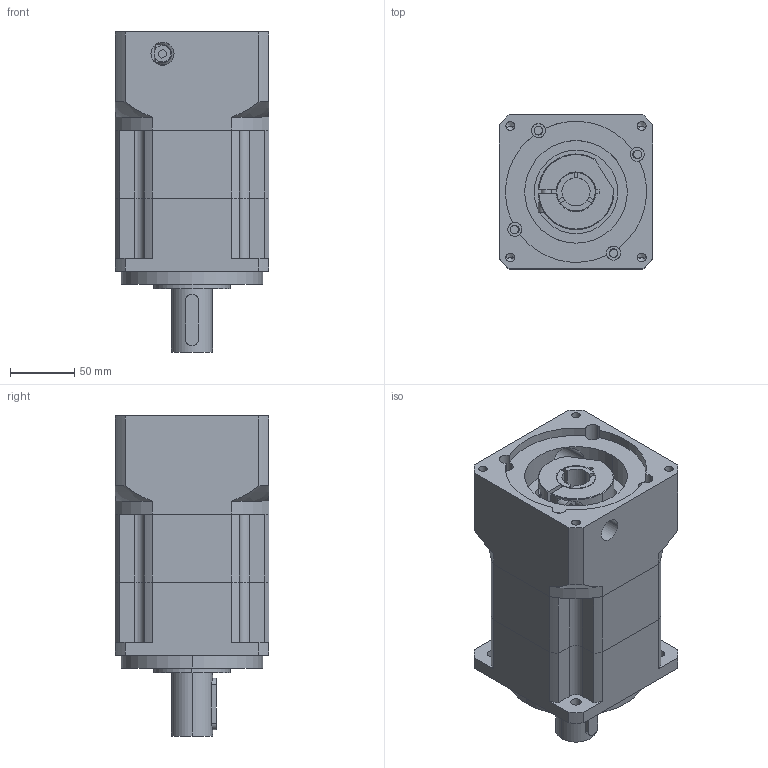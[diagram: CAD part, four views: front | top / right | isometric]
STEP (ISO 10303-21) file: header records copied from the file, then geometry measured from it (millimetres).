
FILE_DESCRIPTION (( 'STEP AP214' ), '1' );
FILE_NAME ('PD120-L2.STEP', '2018-06-26T11:46:41', ( '微软用户' ), ( '微软中国' ), 'SwSTEP 2.0', 'SolidWorks 2014', '' );
FILE_SCHEMA (( 'AUTOMOTIVE_DESIGN' ));
Length unit declared in the file: millimetre
Products named in the file (9): PD120   一级本体齿圈; GB／T70．1-2000   内六角圆柱头螺钉M8×20; PD120   坶踡遠_22; PD120-L2; PD120   喘謫粣; PD120   帣釱; 邧埴瑩   10x8x40; PD120  俴陎蛌殤; PD120   二级齿圈
Assembly tree (8 placements, depth 2):
  PD120-L2
    PD120   一级本体齿圈
    PD120  俴陎蛌殤
    邧埴瑩   10x8x40
    PD120   帣釱
    PD120   喘謫粣
    PD120   坶踡遠_22
    GB／T70．1-2000   内六角圆柱头螺钉M8×20
    PD120   二级齿圈
Bounding box: 120 x 120 x 249.5 mm (x, y, z)
Volume: 2250989 mm3; surface area: 249208.8 mm2
Topology: 8 solids, 8 shells, 291 faces, 760 edges, 495 vertices
Faces by surface type: cylinder 157, plane 100, cone 26, torus 8
Entity records: 10032 total; most frequent: CARTESIAN_POINT 2026, DIRECTION 1670, ORIENTED_EDGE 1500, EDGE_CURVE 750, AXIS2_PLACEMENT_3D 653, VERTEX_POINT 495, LINE 364, VECTOR 364
